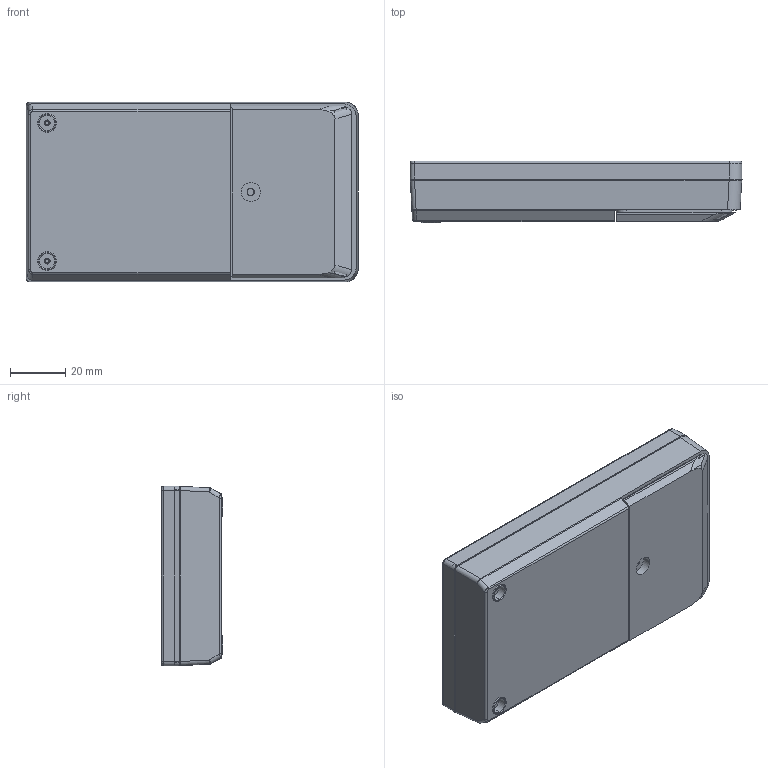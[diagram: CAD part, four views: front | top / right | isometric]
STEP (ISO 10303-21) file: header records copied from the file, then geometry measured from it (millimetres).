
FILE_DESCRIPTION (( 'STEP AP214' ), '1' );
FILE_NAME ('PBL-assem.STEP', '2025-04-09T20:27:10', ( '' ), ( '' ), 'SwSTEP 2.0', 'SolidWorks 2016', '' );
FILE_SCHEMA (( 'AUTOMOTIVE_DESIGN' ));
Length unit declared in the file: inch
Products named in the file (7): door; PBL-top; PBL-bottom; PBL-assem
Assembly tree (3 placements, depth 2):
  door
  PBL-top
  PBL-bottom
  PBL-assem
    PBL-bottom
    PBL-top
    door
Bounding box: 120.27 x 22.33 x 65.2 mm (x, y, z)
Volume: 45817.1 mm3; surface area: 59055.6 mm2
Topology: 3 solids, 3 shells, 1625 faces, 4344 edges, 2865 vertices
Faces by surface type: plane 859, bspline 521, cylinder 165, cone 52, torus 28
Entity records: 73638 total; most frequent: CARTESIAN_POINT 35891, ORIENTED_EDGE 8684, DIRECTION 5942, EDGE_CURVE 4342, VERTEX_POINT 2865, LINE 2816, VECTOR 2816, EDGE_LOOP 1789
